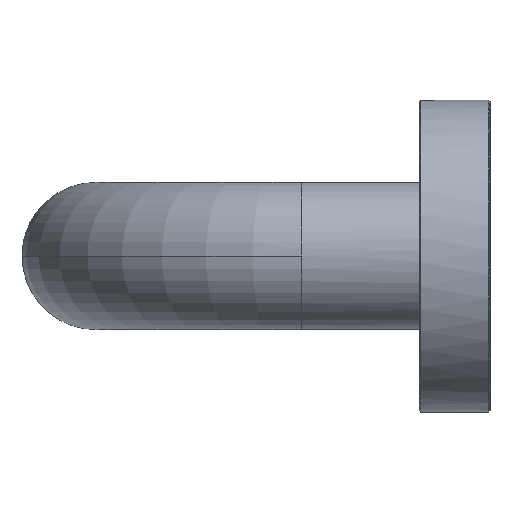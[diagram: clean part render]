
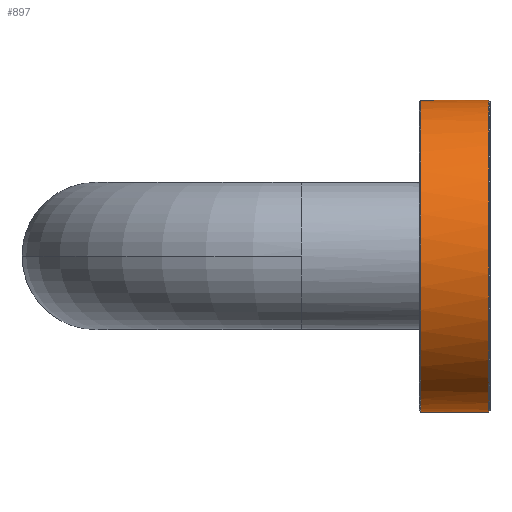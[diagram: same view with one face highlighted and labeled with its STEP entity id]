
A CAD part, left-side view. The second image highlights one B-rep face of the part: STEP entity #897.
In plain terms, the highlighted cylindrical face has radius 26.5 mm (diameter 53 mm), a partial arc.
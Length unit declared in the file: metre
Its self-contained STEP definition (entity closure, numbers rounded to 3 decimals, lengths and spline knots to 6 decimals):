
#284=VERTEX_POINT('',#285);
#285=CARTESIAN_POINT('',(-0.1225,0.0028,-0.0265));
#290=CARTESIAN_POINT('',(-0.1225,0.0028,0.0265));
#292=EDGE_CURVE('',#293,#284,#295,.T.);
#293=VERTEX_POINT('',#294);
#294=CARTESIAN_POINT('',(-0.1225,0.0028,0.0265));
#295=(B_SPLINE_CURVE(3,(#290,#296,#297,#298),.UNSPECIFIED.,.F.,.U.)B_SPLINE_CURVE_WITH_KNOTS(
  (4,4),(0.0,1.0),.UNSPECIFIED.)BOUNDED_CURVE()CURVE()GEOMETRIC_REPRESENTATION_ITEM(
  )RATIONAL_B_SPLINE_CURVE((1.0,0.333,0.333,1.0)
  )REPRESENTATION_ITEM(''));
#296=CARTESIAN_POINT('',(-0.1755,0.0028,0.0265));
#297=CARTESIAN_POINT('',(-0.1755,0.0028,-0.0265));
#298=CARTESIAN_POINT('',(-0.1225,0.0028,-0.0265));
#410=VERTEX_POINT('',#411);
#411=CARTESIAN_POINT('',(-0.1225,-0.0088,-0.0265));
#418=VERTEX_POINT('',#419);
#419=CARTESIAN_POINT('',(-0.1225,-0.0088,0.0265));
#454=CYLINDRICAL_SURFACE('',#455,0.0265);
#455=AXIS2_PLACEMENT_3D('',#456,#457,#458);
#456=CARTESIAN_POINT('',(-0.1225,0.003,-0.0));
#457=DIRECTION('',(0.0,1.0,0.0));
#458=DIRECTION('',(0.0,0.0,1.0));
#463=EDGE_CURVE('',#410,#284,#464,.T.);
#464=LINE('',#465,#466);
#465=CARTESIAN_POINT('',(-0.1225,0.003,-0.0265));
#466=VECTOR('',#467,1.0);
#467=DIRECTION('',(0.0,1.0,0.0));
#476=EDGE_CURVE('',#418,#293,#477,.T.);
#477=LINE('',#478,#479);
#478=CARTESIAN_POINT('',(-0.1225,-0.009,0.0265));
#479=VECTOR('',#480,1.0);
#480=DIRECTION('',(0.0,1.0,0.0));
#896=FACE_OUTER_BOUND('',#898,.T.);
#897=ADVANCED_FACE('',(#896),#454,.T.);
#898=EDGE_LOOP('',(#899,#900,#907,#908));
#899=ORIENTED_EDGE('',*,*,#463,.F.);
#900=ORIENTED_EDGE('',*,*,#902,.T.);
#901=CARTESIAN_POINT('',(-0.1225,-0.0088,-0.0265));
#902=EDGE_CURVE('',#410,#418,#903,.T.);
#903=(B_SPLINE_CURVE(3,(#901,#904,#905,#906),.UNSPECIFIED.,.F.,.U.)B_SPLINE_CURVE_WITH_KNOTS(
  (4,4),(0.0,1.0),.UNSPECIFIED.)BOUNDED_CURVE()CURVE()GEOMETRIC_REPRESENTATION_ITEM(
  )RATIONAL_B_SPLINE_CURVE((1.0,0.333,0.333,1.0)
  )REPRESENTATION_ITEM(''));
#904=CARTESIAN_POINT('',(-0.1755,-0.0088,-0.0265));
#905=CARTESIAN_POINT('',(-0.1755,-0.0088,0.0265));
#906=CARTESIAN_POINT('',(-0.1225,-0.0088,0.0265));
#907=ORIENTED_EDGE('',*,*,#476,.T.);
#908=ORIENTED_EDGE('',*,*,#292,.T.);
